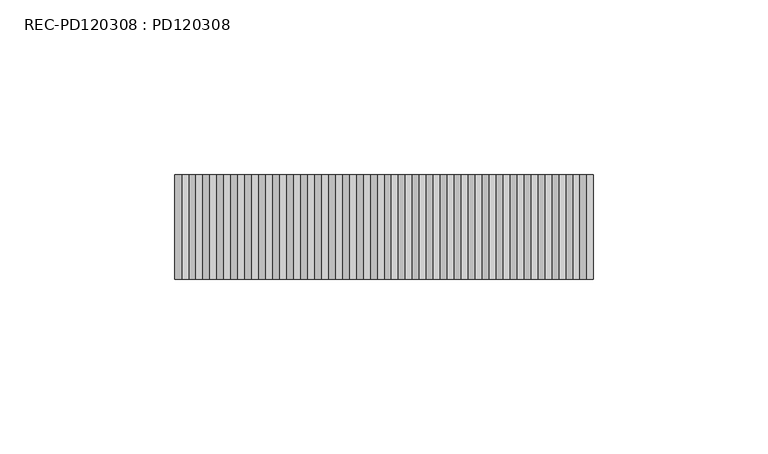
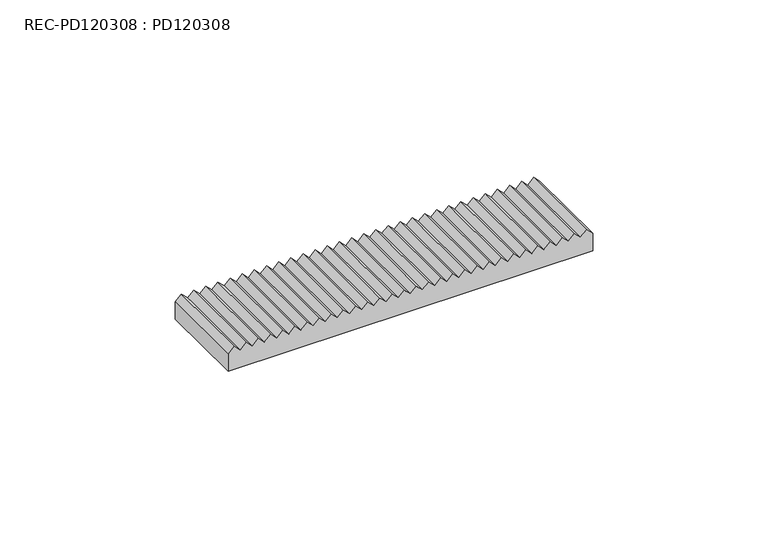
"""IFC4 building model written with IfcOpenShell, lengths in millimetres: fastener geometry, REC-PD120308 : PD120308."""

import ifcopenshell
import ifcopenshell.guid

model = None  # the IFC model being written
_history = None  # IfcOwnerHistory: only IFC2X3 demands one
_inside = {}  # id of a spatial element -> (the spatial element, [elements in it])
_under = {}  # id of a project, library or spatial element -> (it, [spatial elements below it])
_declared = {}  # id of a project -> (the project, [libraries it declares])
_typed = {}  # id of a type object -> (the type object, [elements of that type])
_made_of = {}  # id of a material, layer set ... -> (it, [elements and type objects made of it])


def new_model(schema):
    """Start an empty IFC model of exactly this schema.

    Asked for "IFC4X3", IfcOpenShell would pick the latest addendum, in which some entities
    have other attributes; the version numbers below select the first issue.
    IFC2X3 requires an IfcOwnerHistory on every rooted entity: one is made here for all.
    """
    global model, _history
    if schema == "IFC4X3":
        model = ifcopenshell.file(schema_version=(4, 3, 0, 0))
    else:
        model = ifcopenshell.file(schema=schema)
    _inside.clear()
    _under.clear()
    _declared.clear()
    _typed.clear()
    _made_of.clear()
    _history = None
    if model.schema == "IFC2X3":
        org = make("IfcOrganization", Name="unknown")
        user = make(
            "IfcPersonAndOrganization",
            ThePerson=make("IfcPerson", FamilyName="unknown"),
            TheOrganization=org,
        )
        app = make(
            "IfcApplication",
            ApplicationDeveloper=org,
            Version="unknown",
            ApplicationFullName="unknown",
            ApplicationIdentifier="unknown",
        )
        _history = make(
            "IfcOwnerHistory",
            OwningUser=user,
            OwningApplication=app,
            ChangeAction="ADDED",
            CreationDate=0,
        )
    return model


def make(cls, **values):
    """One entity of the class cls with the attributes given. An attribute that is None is left unset."""
    return model.create_entity(
        cls, **{name: value for name, value in values.items() if value is not None}
    )


def rooted(cls, **values):
    """An entity with a GlobalId (a new one), such as an element, a storey or a relation."""
    return make(cls, GlobalId=ifcopenshell.guid.new(), OwnerHistory=_history, **values)


def si_unit(unit_type, name, prefix=None):
    """IfcSIUnit, for example si_unit("LENGTHUNIT", "METRE", prefix="MILLI")."""
    return make("IfcSIUnit", UnitType=unit_type, Prefix=prefix, Name=name)


def assignment(units):
    """IfcUnitAssignment: the units of a project."""
    return None if units is None else make("IfcUnitAssignment", Units=units)


def point(xyz):
    """IfcCartesianPoint."""
    return None if xyz is None else make("IfcCartesianPoint", Coordinates=xyz)


def direction(xyz):
    """IfcDirection."""
    return None if xyz is None else make("IfcDirection", DirectionRatios=xyz)


def frame(location, z_axis=None, x_axis=None):
    """IfcAxis2Placement3D, a coordinate frame: its origin and axes. An axis left out is left unset."""
    return make(
        "IfcAxis2Placement3D",
        Location=point(location),
        Axis=direction(z_axis),
        RefDirection=direction(x_axis),
    )


def origin():
    """The frame at (0, 0, 0) with its axes left unset."""
    return frame((0.0, 0.0, 0.0))


def place(relative_to, where):
    """IfcLocalPlacement: puts the frame where relative to a parent placement (None: the world)."""
    return make(
        "IfcLocalPlacement", PlacementRelTo=relative_to, RelativePlacement=where
    )


def context(
    kind, dimensions, precision=None, world=None, true_north=None, identifier=None
):
    """IfcGeometricRepresentationContext, for example the 3D "Model" context."""
    return make(
        "IfcGeometricRepresentationContext",
        ContextIdentifier=identifier,
        ContextType=kind,
        CoordinateSpaceDimension=dimensions,
        Precision=precision,
        WorldCoordinateSystem=world,
        TrueNorth=true_north,
    )


def project(units=None, contexts=None):
    """IfcProject with its units and contexts."""
    return rooted(
        "IfcProject",
        Name="project",
        RepresentationContexts=contexts,
        UnitsInContext=assignment(units),
    )


def spatial(cls, under=None, at=None, **own):
    """A site, building, storey or space (cls), placed at a placement, below another one or the project."""
    s = rooted(cls, ObjectPlacement=at, **own)
    if under is not None:
        _under.setdefault(under.id(), (under, []))[1].append(s)
    return s


def polyline(points):
    """IfcPolyline through the points."""
    return make("IfcPolyline", Points=[point(p) for p in points])


def outline(outer, holes=None, kind="AREA"):
    """IfcArbitraryClosedProfileDef: a profile drawn as a closed curve; with holes, ...WithVoids."""
    if holes is None:
        return make("IfcArbitraryClosedProfileDef", ProfileType=kind, OuterCurve=outer)
    return make(
        "IfcArbitraryProfileDefWithVoids",
        ProfileType=kind,
        OuterCurve=outer,
        InnerCurves=holes,
    )


def extrude(swept, where, along, depth):
    """IfcExtrudedAreaSolid: the profile swept, set in the frame where, extruded along a direction by depth."""
    return make(
        "IfcExtrudedAreaSolid",
        SweptArea=swept,
        Position=where,
        ExtrudedDirection=direction(along),
        Depth=depth,
    )


def shape(context_of_items, identifier, shape_type, items):
    """IfcShapeRepresentation: the items that make up one representation, for example the "Body"."""
    return make(
        "IfcShapeRepresentation",
        ContextOfItems=context_of_items,
        RepresentationIdentifier=identifier,
        RepresentationType=shape_type,
        Items=items,
    )


def source(mapping_origin, context_of_items, identifier, shape_type, items):
    """IfcRepresentationMap: a shape defined once, which mapped items show again and again."""
    return make(
        "IfcRepresentationMap",
        MappingOrigin=mapping_origin,
        MappedRepresentation=shape(context_of_items, identifier, shape_type, items),
    )


def transform(
    local_origin,
    x_axis=None,
    y_axis=None,
    z_axis=None,
    scale=None,
    scale2=None,
    scale3=None,
    uniform=True,
):
    """IfcCartesianTransformationOperator3D, or its non-uniform kind. x_axis, y_axis, z_axis: its Axis1, 2, 3."""
    if uniform:
        return make(
            "IfcCartesianTransformationOperator3D",
            Axis1=direction(x_axis),
            Axis2=direction(y_axis),
            LocalOrigin=point(local_origin),
            Scale=scale,
            Axis3=direction(z_axis),
        )
    return make(
        "IfcCartesianTransformationOperator3DnonUniform",
        Axis1=direction(x_axis),
        Axis2=direction(y_axis),
        LocalOrigin=point(local_origin),
        Scale=scale,
        Axis3=direction(z_axis),
        Scale2=scale2,
        Scale3=scale3,
    )


def mapped(mapping_source, mapping_target):
    """IfcMappedItem: shows the shape of a source again, moved by a transform."""
    return make(
        "IfcMappedItem", MappingSource=mapping_source, MappingTarget=mapping_target
    )


def made_of(thing, what):
    """Note that an element or type object is made of a material, layer set ...; save() writes the relation."""
    if what is not None:
        _made_of.setdefault(what.id(), (what, []))[1].append(thing)
    return thing


def element(
    cls,
    number,
    at=None,
    inside=None,
    cuts=None,
    type_object=None,
    material=None,
    context=None,
    identifier="Body",
    shape_type=None,
    held_by="IfcProductDefinitionShape",
    body=None,
    shapes=None,
    **own,
):
    """One element of the class cls, such as IfcWall. Its Tag is "e" and its number.

    at: its placement. inside: the storey or other place that contains it. cuts: it is an
    opening in that element (IfcRelVoidsElement). A single representation is given by context,
    identifier, shape_type and body (its items); several are given by shapes. held_by: the class
    of the entity that holds the representations. save() writes the other relations.
    """
    e = rooted(cls, Tag="e%d" % number, ObjectPlacement=at, **own)
    if body is not None:
        shapes = [shape(context, identifier, shape_type, body)]
    if shapes is not None:
        e.Representation = make(held_by, Representations=shapes)
    if inside is not None:
        _inside.setdefault(inside.id(), (inside, []))[1].append(e)
    if cuts is not None:
        rooted(
            "IfcRelVoidsElement", RelatingBuildingElement=cuts, RelatedOpeningElement=e
        )
    if type_object is not None:
        _typed.setdefault(type_object.id(), (type_object, []))[1].append(e)
    return made_of(e, material)


def aggregate(whole, parts):
    """IfcRelAggregates: a whole, such as a stair, and the parts it consists of."""
    return rooted("IfcRelAggregates", RelatingObject=whole, RelatedObjects=parts)


def save(model, path):
    """Write the relations noted so far, then the file.

    IfcRelAggregates (storeys below a building ...), IfcRelContainedInSpatialStructure (elements
    in a storey), IfcRelDefinesByType, IfcRelAssociatesMaterial and IfcRelDeclares: one each for
    every whole, place, type object, material and project.
    """
    for whole, parts in _under.values():
        aggregate(whole, parts)
    for where, things in _inside.values():
        rooted(
            "IfcRelContainedInSpatialStructure",
            RelatedElements=things,
            RelatingStructure=where,
        )
    for kind, things in _typed.values():
        rooted("IfcRelDefinesByType", RelatedObjects=things, RelatingType=kind)
    for what, things in _made_of.values():
        rooted("IfcRelAssociatesMaterial", RelatedObjects=things, RelatingMaterial=what)
    for by, libraries in _declared.values():
        rooted("IfcRelDeclares", RelatingContext=by, RelatedDefinitions=libraries)
    model.write(path)


def rec_pd120308_pd120308_7336fcc3(model_context):
    return source(origin(), model_context, "Body", "SweptSolid", [
        extrude(outline(polyline([(0.0, -59.9999999), (0.0, 60.0000001), (6.0, 60.0000001), (8.0, 58.0000001), (6.0, 56.0000001), (8.0, 54.0000001), (6.0, 52.0000001), (8.0, 50.0000001), (6.0, 48.0000001), (8.0, 46.0000001), (6.0, 44.0000001), (8.0, 42.0000001), (6.0, 40.0000001), (8.0, 38.0000001), (6.0, 36.0000001), (8.0, 34.0000001), (6.0, 32.0000001), (8.0, 30.0000001), (6.0, 28.0000001), (8.0, 26.0000001), (6.0, 24.0000001), (8.0, 22.0000001), (6.0, 20.0000001), (8.0, 18.0000001), (6.0, 16.0000001), (8.0, 14.0000001), (6.0, 12.0000001), (8.0, 10.0000001), (6.0, 8.0000001), (8.0, 6.0000001), (6.0, 4.0000001), (8.0, 2.0000001), (6.0, 1e-07), (8.0, -1.9999999), (6.0, -3.9999999), (8.0, -5.9999999), (6.0, -7.9999999), (8.0, -9.9999999), (6.0, -11.9999999), (8.0, -13.9999999), (6.0, -15.9999999), (8.0, -17.9999999), (6.0, -19.9999999), (8.0, -21.9999999), (6.0, -23.9999999), (8.0, -25.9999999), (6.0, -27.9999999), (8.0, -29.9999999), (6.0, -31.9999999), (8.0, -33.9999999), (6.0, -35.9999999), (8.0, -37.9999999), (6.0, -39.9999999), (8.0, -41.9999999), (6.0, -43.9999999), (8.0, -45.9999999), (6.0, -47.9999999), (8.0, -49.9999999), (6.0, -51.9999999), (8.0, -53.9999999), (6.0, -55.9999999), (8.0, -57.9999999), (6.0, -59.9999999), (0.0, -59.9999999)])), frame((0.0, -15.0, 0.0), z_axis=(0.0, 1.0, 0.0), x_axis=(0.0, 0.0, 1.0)), (0.0, 0.0, 1.0), 30.0),
    ])


if __name__ == "__main__":
    model = new_model("IFC4")
    model_context = context("Model", 3, world=origin())
    ifc_project = project(units=[si_unit("LENGTHUNIT", "METRE", prefix="MILLI")], contexts=[model_context])
    site = spatial("IfcSite", under=ifc_project)
    building = spatial("IfcBuilding", under=site)
    placement = place(None, origin())
    rec_pd120308_pd120308_shape = rec_pd120308_pd120308_7336fcc3(model_context)
    element("IfcFastener", 1, ObjectType="REC-PD120308 : PD120308", at=placement, inside=building, context=model_context, shape_type="MappedRepresentation", body=[
        mapped(rec_pd120308_pd120308_shape, transform((0.0, 0.0, 0.0), x_axis=(1.0, 0.0, 0.0), y_axis=(0.0, 1.0, 0.0), z_axis=(0.0, 0.0, 1.0))),
    ])
    save(model, "model.ifc")
